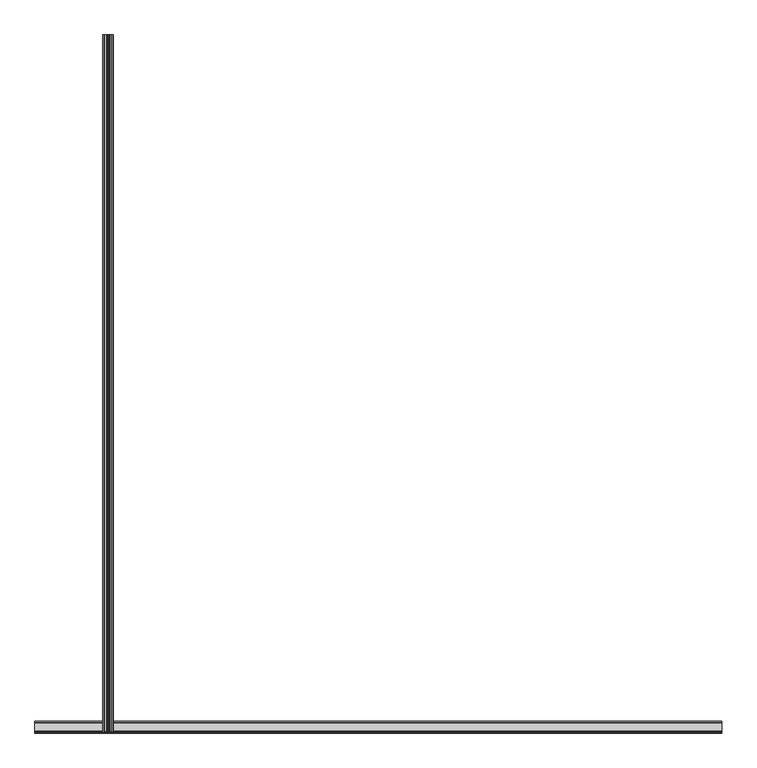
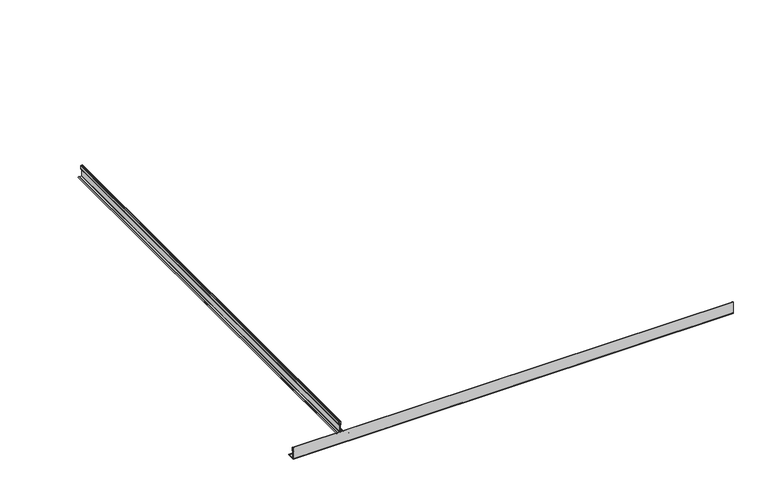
"""IFC4 building model written with IfcOpenShell, lengths in millimetres: proxy geometry, Maxxit_Piramid-Ceiling_rev-01 : Maxxit_Piramid-Ceiling_Quad."""

from ifc_helpers import new_model, si_unit, point, frame, frame_2d, origin, place, context, project, spatial, polyline, circle_curve, trimmed, segment, composite_curve, outline, extrude, source, transform, mapped, element, save


def generic_models_e0519596(model_context):
    return source(origin(), model_context, "Body", "SweptSolid", [
        extrude(outline(composite_curve([segment(polyline([(-0.7637526, -14.9820313), (-0.7637526, -14.1882813), (23.9315855, -14.1882813)]), True, "CONTINUOUS"), segment(trimmed(circle_curve(frame_2d((23.9315855, -13.4996755)), 0.6886057), [point((23.9315855, -14.1882813))], [point((23.7660673, -12.8312583))], True, "CARTESIAN"), True, "CONTINUOUS"), segment(polyline([(23.7660673, -12.8312583), (22.2498583, -13.2589482), (22.0343675, -12.4950092), (23.5605445, -12.0645075)]), True, "CONTINUOUS"), segment(trimmed(circle_curve(frame_2d((23.9315855, -13.4996755)), 1.4823557), [point((23.5605445, -12.0645075))], [point((23.9315855, -14.9820313))], False, "CARTESIAN"), True, "CONTINUOUS"), segment(polyline([(23.9315855, -14.9820313), (-0.7637526, -14.9820313)]), True, "CONTINUOUS")], self_intersect=False)), frame((-0.79375, 0.0, 0.0), z_axis=(1.0, 0.0, 0.0), x_axis=(0.0, 1.0, 0.0)), (0.0, 0.0, 1.0), 1549.4),
        extrude(outline(composite_curve([segment(trimmed(circle_curve(frame_2d((0.002097, 26.9918874)), 1.3969852), [point((-0.79375, 28.1400142))], [point((0.9899147, 27.9797051))], False, "CARTESIAN"), True, "CONTINUOUS"), segment(polyline([(0.9899147, 27.9797051), (2.8954869, 26.0741329)]), True, "CONTINUOUS"), segment(trimmed(circle_curve(frame_2d((1.4453078, 24.6239538)), 2.0508629), [point((2.8954869, 26.0741329))], [point((3.4953927, 24.5674668))], False, "CARTESIAN"), True, "CONTINUOUS"), segment(polyline([(3.4953927, 24.5674668), (3.4953927, 14.4241684)]), True, "CONTINUOUS"), segment(trimmed(circle_curve(frame_2d((2.070021, 14.4241684)), 1.4253717), [point((3.4953927, 14.4241684))], [point((2.4277765, 13.0444237))], False, "CARTESIAN"), True, "CONTINUOUS"), segment(trimmed(circle_curve(frame_2d((1.7403173, 17.0093343)), 4.0240672), [point((2.4277765, 13.0444237))], [point((1.4812006, 12.9936183))], False, "CARTESIAN"), True, "CONTINUOUS"), segment(trimmed(circle_curve(frame_2d((1.5247914, 12.250676)), 0.74422), [point((1.4812006, 12.9936183))], [point((0.7921196, 12.3812724))], True, "CARTESIAN"), True, "CONTINUOUS"), segment(polyline([(0.7921196, 12.3812724), (0.7921196, -12.3766547)]), True, "CONTINUOUS"), segment(trimmed(circle_curve(frame_2d((1.7488039, -12.3766547)), 0.9566843), [point((0.7921196, -12.3766547))], [point((1.7488039, -13.333339))], True, "CARTESIAN"), True, "CONTINUOUS"), segment(polyline([(1.7488039, -13.333339), (23.8388699, -13.333339), (23.8388699, -14.3530133), (0.4665713, -14.0306827)]), True, "CONTINUOUS"), segment(trimmed(circle_curve(frame_2d((0.34925, -12.8937197)), 1.143), [point((0.4665713, -14.0306827))], [point((-0.79375, -12.8937197))], False, "CARTESIAN"), True, "CONTINUOUS"), segment(polyline([(-0.79375, -12.8937197), (-0.79375, 28.1400142)]), True, "CONTINUOUS")], self_intersect=False), holes=[composite_curve([segment(trimmed(circle_curve(frame_2d((0.6395172, 14.4235428)), 0.6350005), [point((0.0045167, 14.4235428))], [point((0.6395172, 13.7885423))], True, "CARTESIAN"), True, "CONTINUOUS"), segment(polyline([(0.6395172, 13.7885423), (2.0621256, 13.7885423)]), True, "CONTINUOUS"), segment(trimmed(circle_curve(frame_2d((2.0621256, 14.4235428)), 0.6350005), [point((2.0621256, 13.7885423))], [point((2.697126, 14.4235428))], True, "CARTESIAN"), True, "CONTINUOUS"), segment(polyline([(2.697126, 14.4235428), (2.697126, 24.5674668)]), True, "CONTINUOUS"), segment(trimmed(circle_curve(frame_2d((1.1942829, 24.5329325)), 1.5032399), [point((2.697126, 24.5674668))], [point((2.3342209, 25.5128669))], True, "CARTESIAN"), True, "CONTINUOUS"), segment(polyline([(2.3342209, 25.5128669), (0.0045167, 27.8425711), (0.0045167, 14.4235428)]), True, "CONTINUOUS")], self_intersect=False)]), frame((-0.79375, 0.0, 0.0), z_axis=(1.0, 0.0, 0.0), x_axis=(0.0, 1.0, 0.0)), (0.0, 0.0, 1.0), 1549.4),
        extrude(outline(composite_curve([segment(polyline([(26.3453115, 165.4521622), (26.0364605, 173.8221882), (27.0486923, 173.8221882), (27.0486923, 166.0587813)]), True, "CONTINUOUS"), segment(trimmed(circle_curve(frame_2d((28.0053766, 166.0587813)), 0.9566843), [point((27.0486923, 166.0587813))], [point((28.0053766, 165.102097))], True, "CARTESIAN"), True, "CONTINUOUS"), segment(polyline([(28.0053766, 165.102097), (53.7729211, 165.102097)]), True, "CONTINUOUS"), segment(trimmed(circle_curve(frame_2d((53.6130577, 165.8289444)), 0.74422), [point((53.7729211, 165.102097))], [point((54.356, 165.7853536))], True, "CARTESIAN"), True, "CONTINUOUS"), segment(trimmed(circle_curve(frame_2d((58.371716, 166.0444703)), 4.0240672), [point((54.356, 165.7853536))], [point((54.4068054, 166.7319295))], False, "CARTESIAN"), True, "CONTINUOUS"), segment(trimmed(circle_curve(frame_2d((55.7865501, 166.374174)), 1.4253717), [point((54.4068054, 166.7319295))], [point((55.7865501, 167.7995457))], False, "CARTESIAN"), True, "CONTINUOUS"), segment(polyline([(55.7865501, 167.7995457), (64.7585942, 167.7995457)]), True, "CONTINUOUS"), segment(trimmed(circle_curve(frame_2d((64.8150812, 165.7494608)), 2.0508629), [point((64.7585942, 167.7995457))], [point((66.2652603, 167.1996399))], False, "CARTESIAN"), True, "CONTINUOUS"), segment(polyline([(66.2652603, 167.1996399), (68.1708325, 165.2940677)]), True, "CONTINUOUS"), segment(trimmed(circle_curve(frame_2d((67.1830148, 164.30625)), 1.3969852), [point((68.1708325, 165.2940677))], [point((68.1708325, 163.3184323))], False, "CARTESIAN"), True, "CONTINUOUS"), segment(polyline([(68.1708325, 163.3184323), (66.2652603, 161.4128601)]), True, "CONTINUOUS"), segment(trimmed(circle_curve(frame_2d((64.8150812, 162.8630392)), 2.0508629), [point((66.2652603, 161.4128601))], [point((64.7585942, 160.8129543))], False, "CARTESIAN"), True, "CONTINUOUS"), segment(polyline([(64.7585942, 160.8129543), (55.7865501, 160.8129543)]), True, "CONTINUOUS"), segment(trimmed(circle_curve(frame_2d((55.7865501, 162.238326)), 1.4253717), [point((55.7865501, 160.8129543))], [point((54.4068054, 161.8805705))], False, "CARTESIAN"), True, "CONTINUOUS"), segment(trimmed(circle_curve(frame_2d((58.371716, 162.5680297)), 4.0240672), [point((54.4068054, 161.8805705))], [point((54.356, 162.8271464))], False, "CARTESIAN"), True, "CONTINUOUS"), segment(trimmed(circle_curve(frame_2d((53.6130577, 162.7835556)), 0.74422), [point((54.356, 162.8271464))], [point((53.7436541, 163.5162274))], True, "CARTESIAN"), True, "CONTINUOUS"), segment(polyline([(53.7436541, 163.5162274), (28.0053766, 163.5162274)]), True, "CONTINUOUS"), segment(trimmed(circle_curve(frame_2d((28.0053766, 162.5595431)), 0.9566843), [point((28.0053766, 163.5162274))], [point((27.0486923, 162.5595431))], True, "CARTESIAN"), True, "CONTINUOUS"), segment(polyline([(27.0486923, 162.5595431), (27.0486923, 153.9632271), (26.0290179, 153.9632271), (26.3453115, 163.1661622)]), True, "CONTINUOUS"), segment(trimmed(circle_curve(frame_2d((27.4883115, 163.1661622)), 1.143), [point((26.3453115, 163.1661622))], [point((27.4883115, 164.3091622))], False, "CARTESIAN"), True, "CONTINUOUS"), segment(trimmed(circle_curve(frame_2d((27.4883115, 165.4521622)), 1.143), [point((27.4883115, 164.3091622))], [point((26.3453115, 165.4521622))], False, "CARTESIAN"), True, "CONTINUOUS")], self_intersect=False), holes=[composite_curve([segment(trimmed(circle_curve(frame_2d((54.058724, 163.2366423)), 1.0922), [point((54.2797221, 164.30625))], [point((55.150924, 163.2366423))], False, "CARTESIAN"), True, "CONTINUOUS"), segment(polyline([(55.150924, 163.2366423), (55.150924, 162.2462215)]), True, "CONTINUOUS"), segment(trimmed(circle_curve(frame_2d((55.7859245, 162.2462215)), 0.6350005), [point((55.150924, 162.2462215))], [point((55.7859245, 161.611221))], True, "CARTESIAN"), True, "CONTINUOUS"), segment(polyline([(55.7859245, 161.611221), (64.7585942, 161.611221)]), True, "CONTINUOUS"), segment(trimmed(circle_curve(frame_2d((64.7240599, 163.1140641)), 1.5032399), [point((64.7585942, 161.611221))], [point((65.7039943, 161.9741261))], True, "CARTESIAN"), True, "CONTINUOUS"), segment(polyline([(65.7039943, 161.9741261), (67.6095665, 163.8796983)]), True, "CONTINUOUS"), segment(trimmed(circle_curve(frame_2d((67.1830148, 164.30625)), 0.6032352), [point((67.6095665, 163.8796983))], [point((67.6095665, 164.7328017))], True, "CARTESIAN"), True, "CONTINUOUS"), segment(polyline([(67.6095665, 164.7328017), (65.7039943, 166.6383739)]), True, "CONTINUOUS"), segment(trimmed(circle_curve(frame_2d((64.7240599, 165.4984359)), 1.5032399), [point((65.7039943, 166.6383739))], [point((64.7585942, 167.001279))], True, "CARTESIAN"), True, "CONTINUOUS"), segment(polyline([(64.7585942, 167.001279), (55.7859245, 167.001279)]), True, "CONTINUOUS"), segment(trimmed(circle_curve(frame_2d((55.7859245, 166.3662785)), 0.6350005), [point((55.7859245, 167.001279))], [point((55.150924, 166.3662785))], True, "CARTESIAN"), True, "CONTINUOUS"), segment(polyline([(55.150924, 166.3662785), (55.150924, 165.3758577)]), True, "CONTINUOUS"), segment(trimmed(circle_curve(frame_2d((54.058724, 165.3758577)), 1.0922), [point((55.150924, 165.3758577))], [point((54.2797221, 164.30625))], False, "CARTESIAN"), True, "CONTINUOUS")], self_intersect=False)]), frame((0.0, -0.79375, 0.0), z_axis=(0.0, 1.0, 0.0), x_axis=(0.0, 0.0, 1.0)), (0.0, 0.0, 1.0), 1574.8),
        extrude(outline(composite_curve([segment(trimmed(circle_curve(frame_2d((26.8823557, 174.7419885)), 1.4823557), [point((25.4, 174.7419885))], [point((28.3175237, 174.3709475))], False, "CARTESIAN"), True, "CONTINUOUS"), segment(polyline([(28.3175237, 174.3709475), (27.887022, 172.8447705), (27.123083, 173.0602613), (27.550773, 174.5764703)]), True, "CONTINUOUS"), segment(trimmed(circle_curve(frame_2d((26.8823557, 174.7419885)), 0.6886057), [point((27.550773, 174.5764703))], [point((26.19375, 174.7419885))], True, "CARTESIAN"), True, "CONTINUOUS"), segment(polyline([(26.19375, 174.7419885), (26.19375, 153.8705115)]), True, "CONTINUOUS"), segment(trimmed(circle_curve(frame_2d((26.8823557, 153.8705115)), 0.6886057), [point((26.19375, 153.8705115))], [point((27.550773, 154.0360297))], True, "CARTESIAN"), True, "CONTINUOUS"), segment(polyline([(27.550773, 154.0360297), (27.123083, 155.5522387), (27.887022, 155.7677295), (28.3175237, 154.2415525)]), True, "CONTINUOUS"), segment(trimmed(circle_curve(frame_2d((26.8823557, 153.8705115)), 1.4823557), [point((28.3175237, 154.2415525))], [point((25.4, 153.8705115))], False, "CARTESIAN"), True, "CONTINUOUS"), segment(polyline([(25.4, 153.8705115), (25.4, 174.7419885)]), True, "CONTINUOUS")], self_intersect=False)), frame((0.0, -0.79375, 0.0), z_axis=(0.0, 1.0, 0.0), x_axis=(0.0, 0.0, 1.0)), (0.0, 0.0, 1.0), 1574.8),
    ])


if __name__ == "__main__":
    model = new_model("IFC4")
    model_context = context("Model", 3, world=origin())
    ifc_project = project(units=[si_unit("LENGTHUNIT", "METRE", prefix="MILLI")], contexts=[model_context])
    site = spatial("IfcSite", under=ifc_project)
    building = spatial("IfcBuilding", under=site)
    placement = place(None, origin())
    generic_models_shape = generic_models_e0519596(model_context)
    element("IfcBuildingElementProxy", 1, Name="Maxxit_Piramid-Ceiling_rev-01 : Maxxit_Piramid-Ceiling_Quad", ObjectType="Maxxit_Piramid-Ceiling_rev-01 : Maxxit_Piramid-Ceiling_Quad", at=placement, inside=building, context=model_context, shape_type="MappedRepresentation", body=[
        mapped(generic_models_shape, transform((0.0, 0.0, 0.0), x_axis=(1.0, 0.0, 0.0), y_axis=(0.0, 1.0, 0.0), z_axis=(0.0, 0.0, 1.0))),
    ])
    save(model, "model.ifc")
